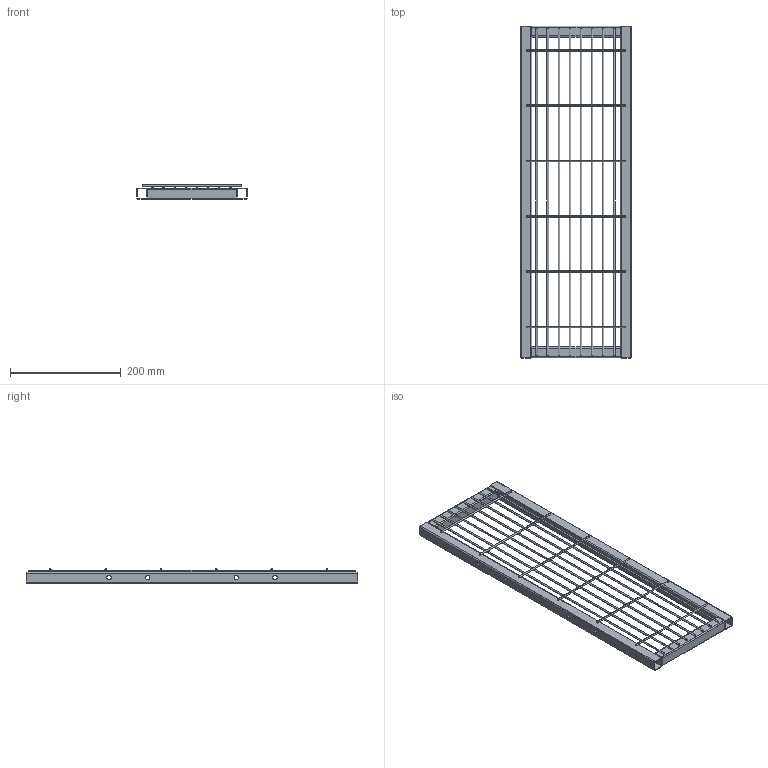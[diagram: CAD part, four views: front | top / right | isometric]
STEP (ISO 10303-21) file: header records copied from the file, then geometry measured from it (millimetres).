
FILE_DESCRIPTION (( 'STEP AP203' ), '1' );
FILE_NAME ('Framed Panel 200 x 600.STEP', '2023-09-15T16:52:59', ( '' ), ( '' ), 'SwSTEP 2.0', 'SolidWorks 2023', '' );
FILE_SCHEMA (( 'CONFIG_CONTROL_DESIGN' ));
Length unit declared in the file: millimetre
Products named in the file (1): Framed Panel 200 x 600
Bounding box: 200 x 600 x 26 mm (x, y, z)
Volume: 203618.5 mm3; surface area: 273154.7 mm2
Topology: 18 solids, 18 shells, 160 faces, 372 edges, 248 vertices
Faces by surface type: cylinder 92, plane 68
Entity records: 4763 total; most frequent: DIRECTION 878, CARTESIAN_POINT 781, ORIENTED_EDGE 744, EDGE_CURVE 372, AXIS2_PLACEMENT_3D 345, VERTEX_POINT 248, EDGE_LOOP 200, LINE 188
